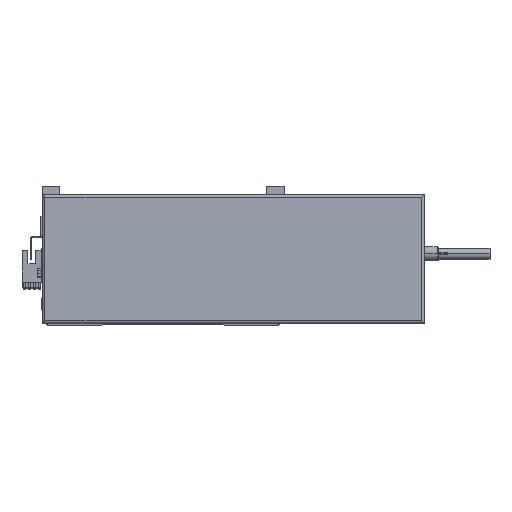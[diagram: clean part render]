
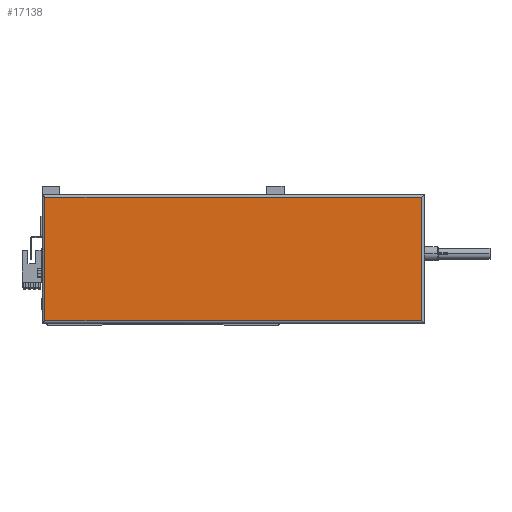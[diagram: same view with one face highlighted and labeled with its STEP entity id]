
A CAD part, top view. The second image highlights one B-rep face of the part: STEP entity #17138.
In plain terms, the highlighted planar face has unit normal (0, 0, 1).
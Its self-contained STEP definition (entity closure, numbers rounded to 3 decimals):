
#1745 = ORIENTED_EDGE ( 'NONE', *, *, #38233, .T. ) ;
#1931 = EDGE_CURVE ( 'NONE', #34153, #14098, #16316, .T. ) ;
#7396 = DIRECTION ( 'NONE',  ( 0., 1., 0. ) ) ;
#9322 = FACE_OUTER_BOUND ( 'NONE', #18730, .T. ) ;
#10418 = ORIENTED_EDGE ( 'NONE', *, *, #1931, .T. ) ;
#11125 = VERTEX_POINT ( 'NONE', #44503 ) ;
#11372 = DIRECTION ( 'NONE',  ( 0., 0., 1. ) ) ;
#11616 = DIRECTION ( 'NONE',  ( -1., 0., 0. ) ) ;
#13806 = CARTESIAN_POINT ( 'NONE',  ( 2., 0., 44.8 ) ) ;
#14098 = VERTEX_POINT ( 'NONE', #38319 ) ;
#15110 = CARTESIAN_POINT ( 'NONE',  ( 267., 2., 44.8 ) ) ;
#16316 = LINE ( 'NONE', #37652, #34021 ) ;
#17138 = ADVANCED_FACE ( 'NONE', ( #9322 ), #41840, .T. ) ;
#17230 = VECTOR ( 'NONE', #17601, 1000. ) ;
#17601 = DIRECTION ( 'NONE',  ( 0., -1., 0. ) ) ;
#18541 = EDGE_CURVE ( 'NONE', #11125, #19340, #36383, .T. ) ;
#18730 = EDGE_LOOP ( 'NONE', ( #40544, #10418, #1745, #28851 ) ) ;
#19340 = VERTEX_POINT ( 'NONE', #19387 ) ;
#19387 = CARTESIAN_POINT ( 'NONE',  ( 265., 2., 44.8 ) ) ;
#22001 = LINE ( 'NONE', #13806, #17230 ) ;
#28851 = ORIENTED_EDGE ( 'NONE', *, *, #18541, .T. ) ;
#30467 = DIRECTION ( 'NONE',  ( 1., 0., 0. ) ) ;
#30689 = DIRECTION ( 'NONE',  ( 1., 0., 0. ) ) ;
#30853 = CARTESIAN_POINT ( 'NONE',  ( 133.5, 45., 44.8 ) ) ;
#30872 = AXIS2_PLACEMENT_3D ( 'NONE', #30853, #11372, #30689 ) ;
#34021 = VECTOR ( 'NONE', #11616, 1000. ) ;
#34153 = VERTEX_POINT ( 'NONE', #38306 ) ;
#35335 = EDGE_CURVE ( 'NONE', #19340, #34153, #41013, .T. ) ;
#36308 = VECTOR ( 'NONE', #7396, 1000. ) ;
#36383 = LINE ( 'NONE', #15110, #45209 ) ;
#37652 = CARTESIAN_POINT ( 'NONE',  ( 0., 88., 44.8 ) ) ;
#38233 = EDGE_CURVE ( 'NONE', #14098, #11125, #22001, .T. ) ;
#38306 = CARTESIAN_POINT ( 'NONE',  ( 265., 88., 44.8 ) ) ;
#38319 = CARTESIAN_POINT ( 'NONE',  ( 2., 88., 44.8 ) ) ;
#40544 = ORIENTED_EDGE ( 'NONE', *, *, #35335, .T. ) ;
#41013 = LINE ( 'NONE', #48781, #36308 ) ;
#41840 = PLANE ( 'NONE',  #30872 ) ;
#44503 = CARTESIAN_POINT ( 'NONE',  ( 2., 2., 44.8 ) ) ;
#45209 = VECTOR ( 'NONE', #30467, 1000. ) ;
#48781 = CARTESIAN_POINT ( 'NONE',  ( 265., 90., 44.8 ) ) ;
